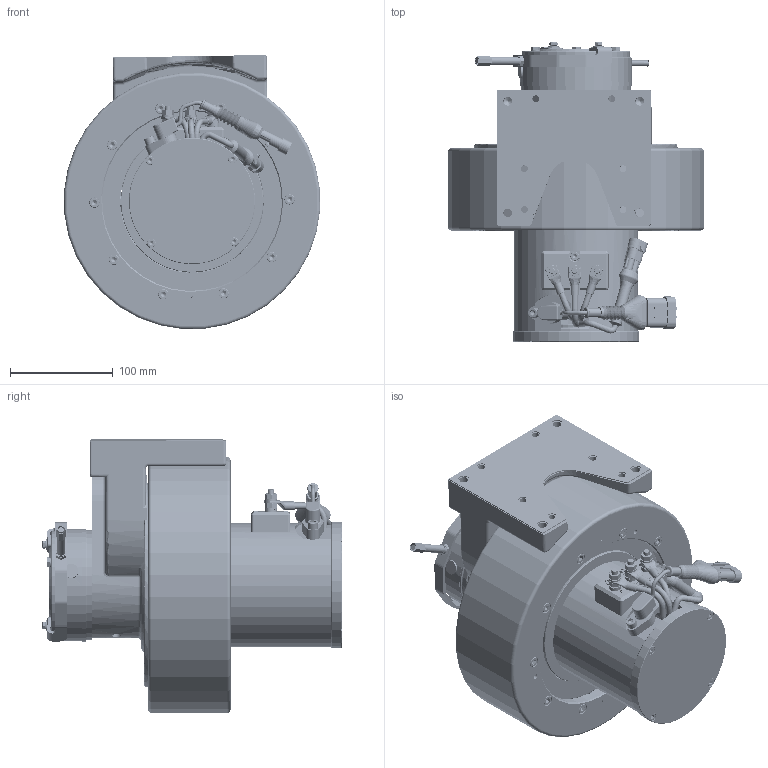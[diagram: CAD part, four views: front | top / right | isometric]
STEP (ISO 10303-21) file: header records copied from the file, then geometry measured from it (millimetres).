
FILE_DESCRIPTION(/* description */ (''),/* implementation_level */ '2;1');
FILE_NAME(/* name */ 'Z:\SITO WEB 2023\Motoruote\Orizzontali NON sterzanti\MR240FR\MR240FR AC\MR240FR-AC.stp',/* time_stamp */ '2023-05-22T11:08:35+02:00',/* author */ ('cad3'),/* organization */ (''),/* preprocessor_version */ 'ST-DEVELOPER v18.1',/* originating_system */ 'Autodesk Inventor 2022',/* authorisation */ '');
FILE_SCHEMA (('AUTOMOTIVE_DESIGN { 1 0 10303 214 3 1 1 }'));
Products named in the file (1): MR240FR-AC
Bounding box: 249.25 x 291.4 x 266.81 mm (x, y, z)
Volume: 3516307.2 mm3; surface area: 786866.1 mm2
Topology: 5 solids, 40 shells, 4568 faces, 11796 edges, 7552 vertices
Faces by surface type: plane 2790, cylinder 805, bspline 383, cone 374, torus 197, sphere 19
Full cylindrical faces by diameter (mm): 2 x2, 3.242 x8, 4 x16, 4.134 x13, 4.2 x8, 4.3 x6, 4.5 x2, 4.917 x6, 5 x21, 5.2 x21, 5.3 x2, 5.5 x11, 6 x33, 6.1 x3, 6.2 x7, 6.5 x14, 6.647 x6, 6.88 x3, 6.917 x3, 7 x11, 7.1 x1, 7.5 x8, 7.8 x1, 8 x8, 8.2 x3, 8.376 x5, 8.4 x1, 8.5 x10, 9 x23, 10 x19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
Entity records: 156331 total; most frequent: CARTESIAN_POINT 41308, ORIENTED_EDGE 23422, DIRECTION 22313, EDGE_CURVE 11711, AXIS2_PLACEMENT_3D 7885, VERTEX_POINT 7551, LINE 6543, VECTOR 6543
